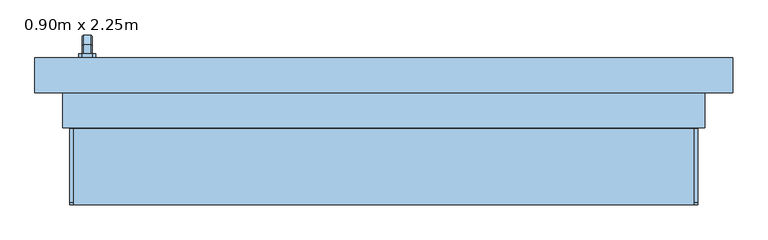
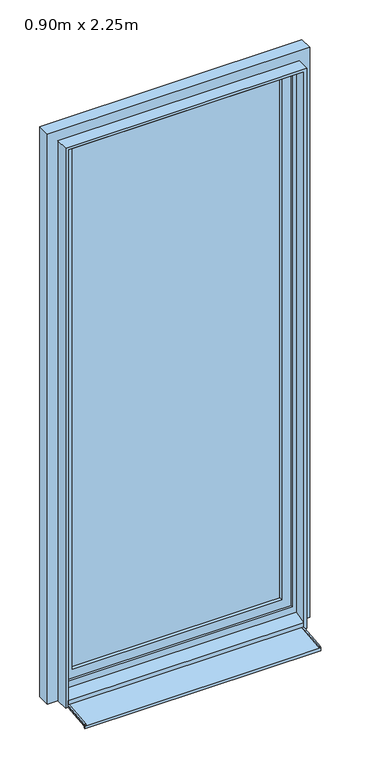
"""IFC4 building model written with IfcOpenShell, lengths in millimetres: window geometry, PF 1 Vantail - Droite : 0.90m x 2.25m."""

from ifc_helpers import new_model, si_unit, point, frame, frame_2d, origin, place, context, project, spatial, polyline, circle_curve, trimmed, segment, composite_curve, outline, extrude, faceted_brep, source, transform, mapped, element, save


def window_0_90m_x_2_25m_cf4a88c4(model_context):
    return source(origin(), model_context, "Body", "SolidModel", [
        faceted_brep([(-419.3539903, 106.0, 1122.0339292), (-430.6460097, 106.0, 1122.0339292), (-432.0339292, 106.0, 1120.6460097), (-432.0339292, 106.0, 1109.3323012), (-430.6676988, 106.0, 1107.9660708), (-419.3323012, 106.0, 1107.9660708), (-417.9660708, 106.0, 1109.3323012), (-417.9660708, 106.0, 1120.6460097), (-417.9660708, 118.3386538, 1120.6460097), (-419.3539903, 118.9135489, 1122.0339292), (-417.9660708, 113.6523623, 1109.3323012), (-417.9660708, 120.3323012, 1102.6523623), (-417.9660708, 120.3323012, 1020.0), (-417.9660708, 131.6460097, 1020.0), (-417.9660708, 131.6460097, 1107.3386538), (-419.3323012, 113.0864511, 1107.9660708), (-430.6676988, 113.0864511, 1107.9660708), (-432.0339292, 113.6523623, 1109.3323012), (-432.0339292, 118.3386538, 1120.6460097), (-432.0339292, 131.6460097, 1107.3386538), (-432.0339292, 131.6460097, 1020.0), (-432.0339292, 120.3323012, 1020.0), (-432.0339292, 120.3323012, 1102.6523623), (-430.6460097, 118.9135489, 1122.0339292), (-419.3539903, 133.0339292, 1107.9135489), (-419.3323012, 118.9660708, 1102.0864511), (-430.6676988, 118.9660708, 1102.0864511), (-430.6460097, 133.0339292, 1107.9135489), (-419.3539903, 133.0339292, 1020.0), (-419.3323012, 118.9660708, 1020.0), (-430.6676988, 118.9660708, 1020.0), (-430.6460097, 133.0339292, 1020.0)], [[[0, 1, 2, 3, 4, 5, 6, 7]], [[7, 8, 9, 0]], [[6, 10, 11, 12, 13, 14, 8, 7]], [[5, 15, 10, 6]], [[4, 16, 15, 5]], [[3, 17, 16, 4]], [[2, 18, 19, 20, 21, 22, 17, 3]], [[1, 23, 18, 2]], [[0, 9, 23, 1]], [[8, 14, 24, 9]], [[15, 25, 11, 10]], [[16, 26, 25, 15]], [[17, 22, 26, 16]], [[23, 27, 19, 18]], [[9, 24, 27, 23]], [[28, 13, 12, 29, 30, 21, 20, 31]], [[14, 13, 28, 24]], [[25, 29, 12, 11]], [[26, 30, 29, 25]], [[22, 21, 30, 26]], [[27, 31, 20, 19]], [[24, 28, 31, 27]]]),
        extrude(outline(polyline([(1140.0, -418.0), (1140.0, -432.0), (1135.0, -437.0), (1065.0, -437.0), (1060.0, -432.0), (1060.0, -418.0), (1065.0, -413.0), (1135.0, -413.0), (1140.0, -418.0)])), frame((0.0, 100.0, 0.0), z_axis=(0.0, 1.0, 0.0), x_axis=(0.0, 0.0, 1.0)), (0.0, 0.0, 1.0), 6.0),
        extrude(outline(polyline([(-110.0288776, 26.588626), (15.0, 39.7296906), (15.0, 50.0), (20.0, 50.0), (20.0, 35.0), (-105.0288776, 21.8589354), (-105.0288776, 16.0359447), (-110.0288776, 15.5104235), (-110.0288776, 26.588626)])), frame((-450.0, 0.0, 0.0), z_axis=(1.0, 0.0, 0.0), x_axis=(0.0, 1.0, 0.0)), (0.0, 0.0, 1.0), 900.0),
        extrude(outline(composite_curve([segment(polyline([(-110.0288776, 26.588626), (-110.0288776, 28.0145512)]), True, "CONTINUOUS"), segment(trimmed(circle_curve(frame_2d((-106.0288776, 28.0145512)), 4.0), [point((-110.0288776, 28.0145512))], [point((-106.4469915, 31.9926388))], False, "CARTESIAN"), True, "CONTINUOUS"), segment(polyline([(-106.4469915, 31.9926388), (15.0, 44.757232), (15.0, 39.7296906), (-110.0288776, 26.588626)]), True, "CONTINUOUS")], self_intersect=False)), frame((-450.0, 0.0, 0.0), z_axis=(1.0, 0.0, 0.0), x_axis=(0.0, 1.0, 0.0)), (0.0, 0.0, 1.0), 5.0),
        extrude(outline(composite_curve([segment(polyline([(-110.0288776, 26.588626), (-110.0288776, 28.0145512)]), True, "CONTINUOUS"), segment(trimmed(circle_curve(frame_2d((-106.0288776, 28.0145512)), 4.0), [point((-110.0288776, 28.0145512))], [point((-106.4469915, 31.9926388))], False, "CARTESIAN"), True, "CONTINUOUS"), segment(polyline([(-106.4469915, 31.9926388), (15.0, 44.757232), (15.0, 39.7296906), (-110.0288776, 26.588626)]), True, "CONTINUOUS")], self_intersect=False)), frame((445.0, 0.0, 0.0), z_axis=(1.0, 0.0, 0.0), x_axis=(0.0, 1.0, 0.0)), (0.0, 0.0, 1.0), 5.0),
        extrude(outline(polyline([(-400.0, 74.0), (-400.0, 86.0), (400.0, 86.0), (400.0, 74.0), (-400.0, 74.0)])), frame((0.0, 0.0, 135.0), z_axis=(0.0, 0.0, 1.0), x_axis=(1.0, 0.0, 0.0)), (0.0, 0.0, 1.0), 2100.0),
        extrude(outline(polyline([(85.0, -450.0), (85.0, 450.0), (2285.0, 450.0), (2285.0, -450.0), (85.0, -450.0)]), holes=[polyline([(135.0, 400.0), (135.0, -400.0), (2235.0, -400.0), (2235.0, 400.0), (135.0, 400.0)])]), frame((0.0, 60.0, 0.0), z_axis=(0.0, 1.0, 0.0), x_axis=(0.0, 0.0, 1.0)), (0.0, 0.0, 1.0), 40.0),
        extrude(outline(polyline([(35.0, -450.0), (2285.0, -450.0), (2285.0, 450.0), (35.0, 450.0), (35.0, 460.0), (2295.0, 460.0), (2295.0, -460.0), (35.0, -460.0), (35.0, -450.0)])), frame((0.0, 0.0, 0.0), z_axis=(0.0, 1.0, 0.0), x_axis=(0.0, 0.0, 1.0)), (0.0, 0.0, 1.0), 50.0),
        faceted_brep([(-500.0, 100.0, 35.0), (500.0, 100.0, 35.0), (500.0, 50.0, 35.0), (450.0, 50.0, 35.0), (450.0, 20.0, 35.0), (-450.0, 20.0, 35.0), (-450.0, 50.0, 35.0), (-500.0, 50.0, 35.0), (-500.0, 50.0, 2335.0), (-500.0, 100.0, 2335.0), (-450.0, 50.0, 74.3761425), (450.0, 50.0, 74.3761425), (500.0, 50.0, 2335.0), (-435.0, 50.0, 2270.0), (435.0, 50.0, 2270.0), (435.0, 50.0, 100.0), (-435.0, 50.0, 100.0), (-450.0, 20.0, 50.0), (-450.0, 10.0, 50.0), (-450.0, 10.0, 45.0), (-450.0, 0.0, 45.0), (-450.0, 0.0, 60.9786829), (450.0, 20.0, 50.0), (450.0, 0.0, 60.9786829), (450.0, 0.0, 45.0), (450.0, 10.0, 45.0), (450.0, 10.0, 50.0), (500.0, 100.0, 2335.0), (450.0, 100.0, 2285.0), (-450.0, 100.0, 2285.0), (-450.0, 100.0, 85.0), (450.0, 100.0, 85.0), (-435.0, 60.0, 100.0), (-435.0, 60.0, 2270.0), (435.0, 60.0, 100.0), (435.0, 60.0, 2270.0), (450.0, 60.0, 2285.0), (450.0, 60.0, 85.0), (-450.0, 60.0, 85.0), (-450.0, 60.0, 2285.0)], [[[0, 1, 2, 3, 4, 5, 6, 7]], [[7, 8, 9, 0]], [[7, 6, 10, 11, 3, 2, 12, 8], [13, 14, 15, 16]], [[10, 6, 5, 17, 18, 19, 20, 21]], [[5, 4, 22, 17]], [[4, 3, 11, 23, 24, 25, 26, 22]], [[2, 1, 27, 12]], [[0, 9, 27, 1], [28, 29, 30, 31]], [[13, 16, 32, 33]], [[32, 16, 15, 34]], [[35, 34, 15, 14]], [[21, 23, 11, 10]], [[36, 37, 38, 39], [33, 32, 34, 35]], [[38, 30, 29, 39]], [[30, 38, 37, 31]], [[28, 31, 37, 36]], [[20, 24, 23, 21]], [[19, 25, 24, 20]], [[18, 26, 25, 19]], [[17, 22, 26, 18]], [[13, 33, 35, 14]], [[12, 27, 9, 8]], [[39, 29, 28, 36]]]),
    ])


if __name__ == "__main__":
    model = new_model("IFC4")
    model_context = context("Model", 3, world=origin())
    ifc_project = project(units=[si_unit("LENGTHUNIT", "METRE", prefix="MILLI")], contexts=[model_context])
    site = spatial("IfcSite", under=ifc_project)
    building = spatial("IfcBuilding", under=site)
    placement = place(None, origin())
    window_0_90m_x_2_25m_shape = window_0_90m_x_2_25m_cf4a88c4(model_context)
    element("IfcWindow", 1, ObjectType="PF 1 Vantail - Droite : 0.90m x 2.25m", at=placement, inside=building, context=model_context, shape_type="MappedRepresentation", body=[
        mapped(window_0_90m_x_2_25m_shape, transform((0.0, 0.0, 0.0), x_axis=(1.0, 0.0, 0.0), y_axis=(0.0, 1.0, 0.0), z_axis=(0.0, 0.0, 1.0))),
    ])
    save(model, "model.ifc")
